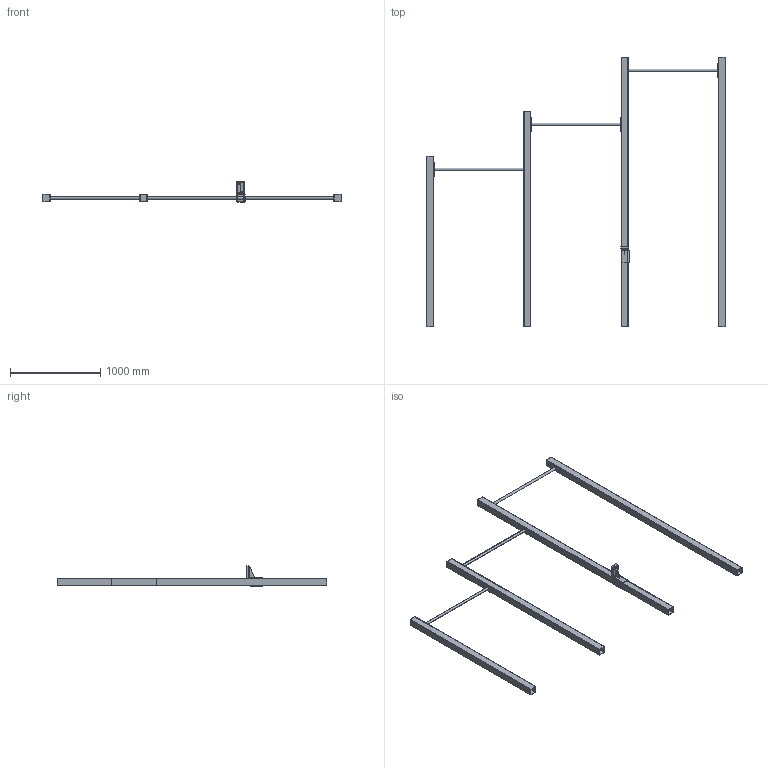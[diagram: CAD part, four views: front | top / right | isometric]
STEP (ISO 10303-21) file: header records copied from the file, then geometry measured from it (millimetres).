
FILE_DESCRIPTION(/* description */ (''),/* implementation_level */ '2;1');
FILE_NAME(/* name */ 'OGCU3_3D_Low.step',/* time_stamp */ '2025-11-11T16:08:48+02:00',/* author */ (''),/* organization */ (''),/* preprocessor_version */ 'ST-DEVELOPER v20.1',/* originating_system */ 'Autodesk Translation Framework v14.21.0.0',/* authorisation */ '');
FILE_SCHEMA (('AUTOMOTIVE_DESIGN { 1 0 10303 214 3 1 1 }'));
Length unit declared in the file: millimetre
Products named in the file (1): OGCU3_3D_Low
Bounding box: 3320 x 2998 x 230 mm (x, y, z)
Volume: 11548478.8 mm3; surface area: 7111986.3 mm2
Topology: 22 solids, 22 shells, 253 faces, 589 edges, 380 vertices
Faces by surface type: plane 139, cylinder 100, sphere 8, cone 6
Full cylindrical faces by diameter (mm): 11 x4, 22 x3, 25 x6, 30 x5, 31 x2
Entity records: 7360 total; most frequent: DIRECTION 1305, CARTESIAN_POINT 1223, ORIENTED_EDGE 1178, EDGE_CURVE 589, AXIS2_PLACEMENT_3D 462, LINE 381, VECTOR 381, VERTEX_POINT 380
